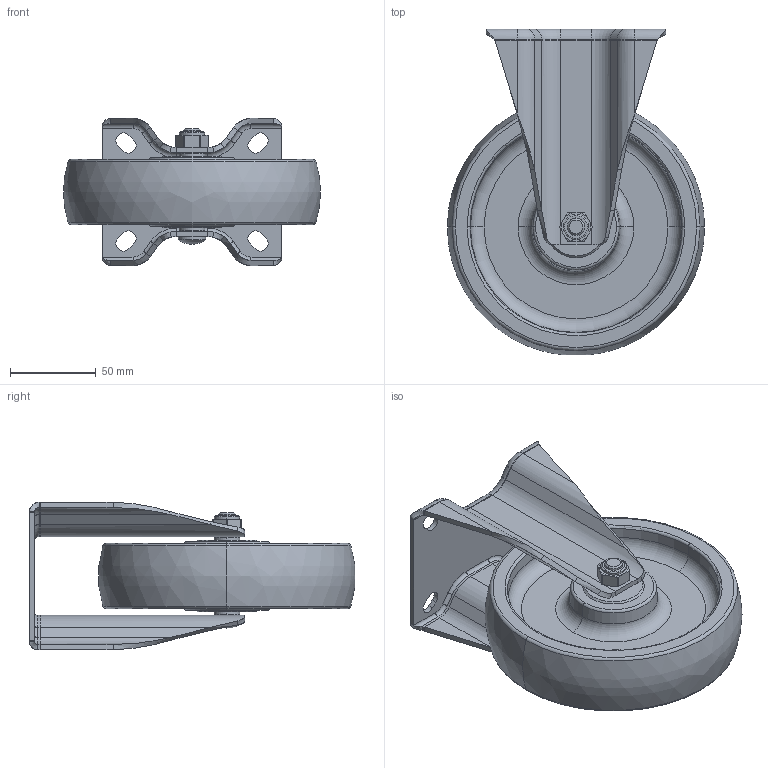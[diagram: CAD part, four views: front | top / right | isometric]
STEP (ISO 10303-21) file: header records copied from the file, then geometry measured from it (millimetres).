
FILE_DESCRIPTION((''),'2;1');
FILE_NAME('64106-646-06_ASM','2021-02-24T',('lenovo'),(''),'PRO/ENGINEER BY PARAMETRIC TECHNOLOGY CORPORATION, 2010280','PRO/ENGINEER BY PARAMETRIC TECHNOLOGY CORPORATION, 2010280','');
FILE_SCHEMA(('CONFIG_CONTROL_DESIGN'));
Length unit declared in the file: millimetre
Products named in the file (5): 646-10; 646-806; 630-33A; 630-34; 64106-646-06_ASM
Assembly tree (4 placements, depth 2):
  64106-646-06_ASM
    646-10
    646-806
    630-33A
    630-34
Bounding box: 150 x 190.2 x 85.97 mm (x, y, z)
Volume: 457150.8 mm3; surface area: 117419.8 mm2
Topology: 4 solids, 4 shells, 275 faces, 612 edges, 353 vertices
Faces by surface type: plane 101, cylinder 86, torus 38, cone 30, bspline 18, sphere 2
Entity records: 8495 total; most frequent: CARTESIAN_POINT 2293, DIRECTION 1334, ORIENTED_EDGE 1220, EDGE_CURVE 610, AXIS2_PLACEMENT_3D 518, VERTEX_POINT 353, EDGE_LOOP 299, VECTOR 298
